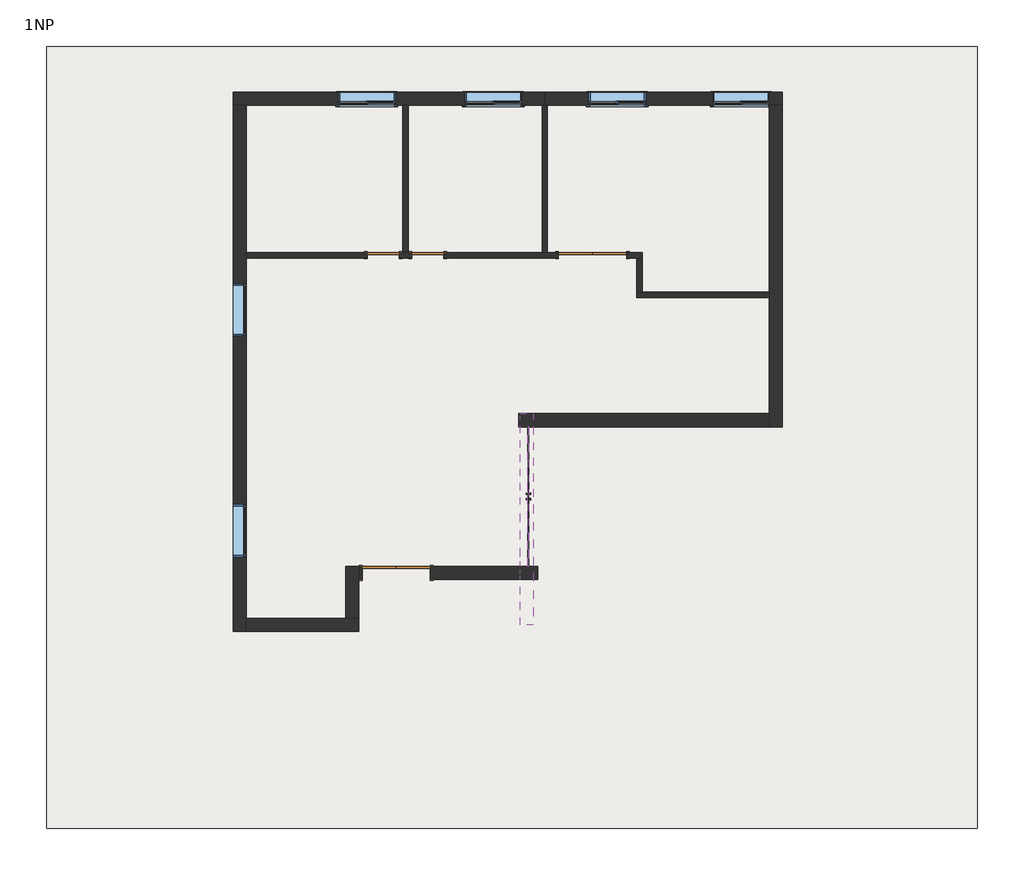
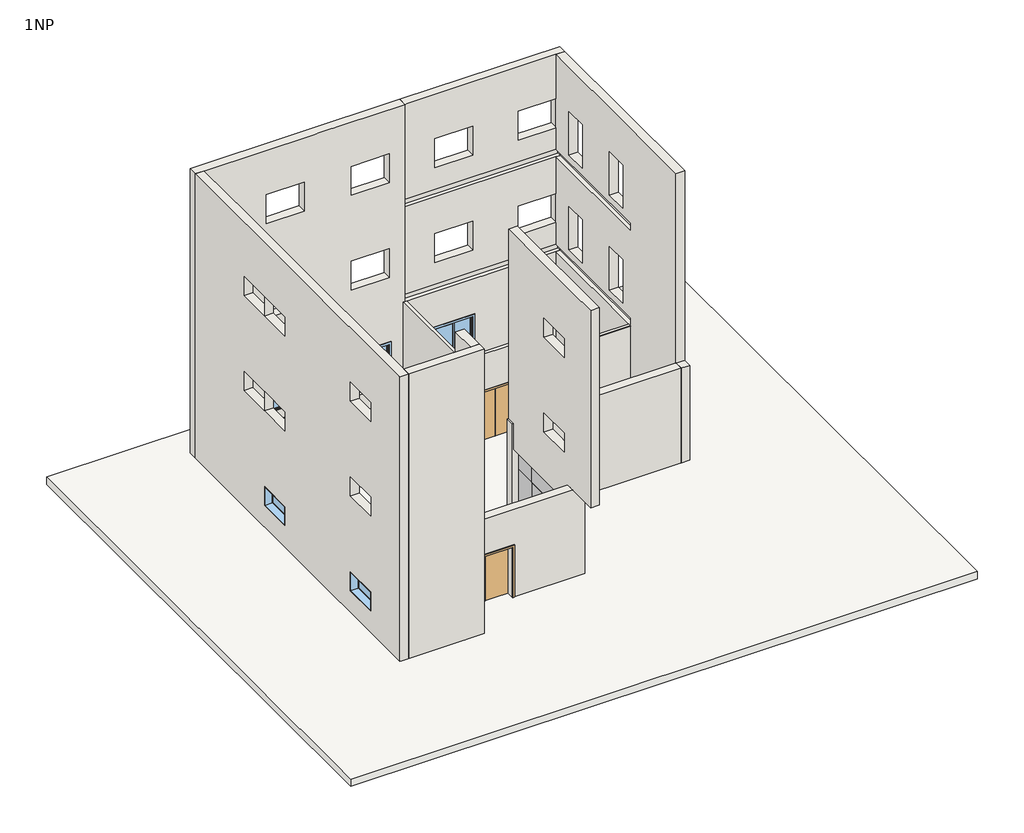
# One storey: 14 walls, 6 plates, 6 windows, 4 doors, 1 slab.
"""IFC4 building model written with IfcOpenShell, lengths in millimetres."""

from ifc_helpers import new_model, si_unit, frame, origin, origin_with_axes, place, context, project, spatial, polyline, outline, extrude, faceted_brep, transform, mapped, element, save
from components import m_double_flush_1830_x_2083mm_7a28c534, m_double_flush_1830_x_2134mm_224c2c1d, m_single_flush_0864_x_2134mm_5a8c3ac0, m_single_flush_0864_x_2134mm_a6052287, m_curtain_wall_dbl_glass_m_curtain_wall_dbl_glass_b983a01c, system_panel_glazed_d6775a2a, system_panel_glazed_6fd2c7c7, system_panel_glazed_7348faa0, m_fixed_1400_x_0800mm_a23a53e8, m_sliding_with_trim_1830_x_1220mm_f8e2f31e

model = new_model("IFC4")

# Units and contexts
model_context = context("Model", 3, world=origin())
ifc_project = project(units=[si_unit("LENGTHUNIT", "METRE", prefix="MILLI")], contexts=[model_context])

# Site, building, storey
site = spatial("IfcSite", under=ifc_project)
building = spatial("IfcBuilding", under=site)
storey = spatial("IfcBuildingStorey", under=building, Name="1NP", Elevation=0.0)

# Doors
placement = place(None, origin())
m_double_flush_1830_x_2083mm_shape = m_double_flush_1830_x_2083mm_7a28c534(model_context)
element("IfcDoor", 1, ObjectType="M_Double-Flush : 1830 x 2083mm", at=placement, inside=storey, context=model_context, shape_type="MappedRepresentation", body=[
    mapped(m_double_flush_1830_x_2083mm_shape, transform((2118.243045, 5680.8503657, 0.0), x_axis=(0.9999999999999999, 0.0, 0.0), y_axis=(0.0, 0.9999999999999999, 0.0), z_axis=(0.0, 0.0, 1.0))),
])
m_double_flush_1830_x_2134mm_shape = m_double_flush_1830_x_2134mm_224c2c1d(model_context)
element("IfcDoor", 2, ObjectType="M_Double-Flush : 1830 x 2134mm", at=placement, inside=storey, context=model_context, shape_type="MappedRepresentation", body=[
    mapped(m_double_flush_1830_x_2134mm_shape, transform((-3151.8077176, -2850.1973194, 0.0), x_axis=(0.9999999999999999, 0.0, 0.0), y_axis=(0.0, 0.9999999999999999, 0.0), z_axis=(0.0, 0.0, 1.0))),
])
m_single_flush_0864_x_2134mm_shape = m_single_flush_0864_x_2134mm_5a8c3ac0(model_context)
element("IfcDoor", 3, ObjectType="M_Single-Flush : 0864 x 2134mm", at=placement, inside=storey, context=model_context, shape_type="MappedRepresentation", body=[
    mapped(m_single_flush_0864_x_2134mm_shape, transform((-3505.756955, 5680.8503657, 0.0), x_axis=(0.9999999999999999, 0.0, 0.0), y_axis=(0.0, 0.9999999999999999, 0.0), z_axis=(0.0, 0.0, 1.0))),
])
m_single_flush_0864_x_2134mm_2_shape = m_single_flush_0864_x_2134mm_a6052287(model_context)
element("IfcDoor", 4, ObjectType="M_Single-Flush : 0864 x 2134mm", at=placement, inside=storey, context=model_context, shape_type="MappedRepresentation", body=[
    mapped(m_single_flush_0864_x_2134mm_2_shape, transform((-2303.256955, 5680.8503657, 0.0), x_axis=(-0.9999999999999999, 0.0, 0.0), y_axis=(0.0, -0.9999999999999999, 0.0), z_axis=(0.0, 0.0, 1.0))),
])

# Plates
m_curtain_wall_dbl_glass_m_curtain_wall_dbl_glass_shape = m_curtain_wall_dbl_glass_m_curtain_wall_dbl_glass_b983a01c(model_context)
element("IfcPlate", 5, ObjectType="M_Curtain Wall Dbl Glass : M_Curtain Wall Dbl Glass", at=placement, inside=storey, context=model_context, shape_type="MappedRepresentation", body=[
    mapped(m_curtain_wall_dbl_glass_m_curtain_wall_dbl_glass_shape, transform((357.3775179, -800.1973194, 0.0), x_axis=(0.0, 1.0, 0.0), y_axis=(-1.0, 0.0, 0.0), z_axis=(0.0, 0.0, 1.0))),
])
system_panel_glazed_shape = system_panel_glazed_d6775a2a(model_context)
element("IfcPlate", 6, ObjectType="System Panel : Glazed", at=placement, inside=storey, context=model_context, shape_type="MappedRepresentation", body=[
    mapped(system_panel_glazed_shape, transform((357.3775179, -2225.1973194, 0.0), x_axis=(0.0, 1.0, 0.0), y_axis=(-1.0, 0.0, 0.0), z_axis=(0.0, 0.0, 1.0))),
])
element("IfcPlate", 7, ObjectType="System Panel : Glazed", at=placement, inside=storey, context=model_context, shape_type="MappedRepresentation", body=[
    mapped(system_panel_glazed_shape, transform((357.3775179, 624.8026806, 0.0), x_axis=(0.0, 1.0, 0.0), y_axis=(-1.0, 0.0, 0.0), z_axis=(0.0, 0.0, 1.0))),
])
system_panel_glazed_2_shape = system_panel_glazed_6fd2c7c7(model_context)
element("IfcPlate", 8, ObjectType="System Panel : Glazed", at=placement, inside=storey, context=model_context, shape_type="MappedRepresentation", body=[
    mapped(system_panel_glazed_2_shape, transform((357.3775179, -2225.1973194, 2000.0), x_axis=(0.0, 1.0, 0.0), y_axis=(-1.0, 0.0, 0.0), z_axis=(0.0, 0.0, 1.0))),
])
element("IfcPlate", 9, ObjectType="System Panel : Glazed", at=placement, inside=storey, context=model_context, shape_type="MappedRepresentation", body=[
    mapped(system_panel_glazed_2_shape, transform((357.3775179, 624.8026806, 2000.0), x_axis=(0.0, 1.0, 0.0), y_axis=(-1.0, 0.0, 0.0), z_axis=(0.0, 0.0, 1.0))),
])
system_panel_glazed_3_shape = system_panel_glazed_7348faa0(model_context)
element("IfcPlate", 10, ObjectType="System Panel : Glazed", at=placement, inside=storey, context=model_context, shape_type="MappedRepresentation", body=[
    mapped(system_panel_glazed_3_shape, transform((357.3775179, -800.1973194, 2000.0), x_axis=(0.0, 1.0, 0.0), y_axis=(-1.0, 0.0, 0.0), z_axis=(0.0, 0.0, 1.0))),
])

# Slab
element("IfcSlab", 11, ObjectType="Generic 300mm", at=placement, inside=storey, context=model_context, shape_type="SweptSolid", body=[
    extrude(outline(polyline([(12456.1188993, 11292.3429374), (12456.1188993, -9707.6570626), (-12543.8811007, -9707.6570626), (-12543.8811007, 11292.3429374), (12456.1188993, 11292.3429374)])), frame((0.0, 0.0, -300.0), z_axis=(0.0, 0.0, 1.0), x_axis=(1.0, 0.0, 0.0)), (0.0, 0.0, 1.0), 300.0),
])

# Walls
element("IfcWall", 12, ObjectType="Exterior - Brick on Mtl. Stud", at=placement, inside=storey, context=model_context, shape_type="Brep", body=[
    faceted_brep([(-7530.3077176, 9711.6003657, 0.0), (-7530.3077176, -4425.1973194, 0.0), (-7530.3077176, -4425.1973194, 12000.0), (-7530.3077176, 9711.6003657, 12000.0), (-7530.3077176, -1017.6973194, 4915.0), (-7530.3077176, -1017.6973194, 5715.0), (-7530.3077176, -2417.6973194, 5715.0), (-7530.3077176, -2417.6973194, 4915.0), (-7530.3077176, 4917.3026806, 4915.0), (-7530.3077176, 4917.3026806, 5715.0), (-7530.3077176, 3517.3026806, 5715.0), (-7530.3077176, 3517.3026806, 4915.0), (-7530.3077176, 6332.3026806, 4915.0), (-7530.3077176, 6332.3026806, 5715.0), (-7530.3077176, 4932.3026806, 5715.0), (-7530.3077176, 4932.3026806, 4915.0), (-7530.3077176, -1017.6973194, 8915.0), (-7530.3077176, -1017.6973194, 9715.0), (-7530.3077176, -2417.6973194, 9715.0), (-7530.3077176, -2417.6973194, 8915.0), (-7530.3077176, 4917.3026806, 8915.0), (-7530.3077176, 4917.3026806, 9715.0), (-7530.3077176, 3517.3026806, 9715.0), (-7530.3077176, 3517.3026806, 8915.0), (-7530.3077176, 6332.3026806, 8915.0), (-7530.3077176, 6332.3026806, 9715.0), (-7530.3077176, 4932.3026806, 9715.0), (-7530.3077176, 4932.3026806, 8915.0), (-7530.3077176, -1017.6973194, 915.0), (-7530.3077176, -1017.6973194, 1715.0), (-7530.3077176, -2417.6973194, 1715.0), (-7530.3077176, -2417.6973194, 915.0), (-7530.3077176, 4917.3026806, 915.0), (-7530.3077176, 4917.3026806, 1715.0), (-7530.3077176, 3517.3026806, 1715.0), (-7530.3077176, 3517.3026806, 915.0), (-7180.3077176, -4425.1973194, 0.0), (-7180.3077176, -4075.1973194, 0.0), (-7180.3077176, 5611.6003657, 0.0), (-7180.3077176, 5750.1003657, 0.0), (-7180.3077176, 9711.6003657, 0.0), (-7180.3077176, 9711.6003657, 3680.0), (-7180.3077176, 5750.1003657, 3680.0), (-7180.3077176, 5611.6003657, 3680.0), (-7180.3077176, -4075.1973194, 3680.0), (-7180.3077176, -4240.1973194, 3680.0), (-7180.3077176, -4240.1973194, 4000.0), (-7180.3077176, -4075.1973194, 4000.0), (-7180.3077176, -652.1973194, 4000.0), (-7180.3077176, -513.6973194, 4000.0), (-7180.3077176, 1286.3026806, 4000.0), (-7180.3077176, 1424.8026806, 4000.0), (-7180.3077176, 6630.0261065, 4000.0), (-7180.3077176, 6768.5261065, 4000.0), (-7180.3077176, 9711.6003657, 4000.0), (-7180.3077176, 9711.6003657, 7680.0), (-7180.3077176, 6768.5261065, 7680.0), (-7180.3077176, 6630.0261065, 7680.0), (-7180.3077176, 1424.8026806, 7680.0), (-7180.3077176, 1286.3026806, 7680.0), (-7180.3077176, -513.6973194, 7680.0), (-7180.3077176, -652.1973194, 7680.0), (-7180.3077176, -4075.1973194, 7680.0), (-7180.3077176, -4240.1973194, 7680.0), (-7180.3077176, -4240.1973194, 8000.0), (-7180.3077176, -4075.1973194, 8000.0), (-7180.3077176, 1286.3026806, 8000.0), (-7180.3077176, 1424.8026806, 8000.0), (-7180.3077176, 6630.0261065, 8000.0), (-7180.3077176, 6768.5261065, 8000.0), (-7180.3077176, 9711.6003657, 8000.0), (-7180.3077176, 9711.6003657, 12000.0), (-7180.3077176, 6768.5261065, 12000.0), (-7180.3077176, 6630.0261065, 12000.0), (-7180.3077176, 1424.8026806, 12000.0), (-7180.3077176, 1286.3026806, 12000.0), (-7180.3077176, -4075.1973194, 12000.0), (-7180.3077176, -4425.1973194, 12000.0), (-7180.3077176, -1017.6973194, 5715.0), (-7180.3077176, -1017.6973194, 4915.0), (-7180.3077176, -2417.6973194, 4915.0), (-7180.3077176, -2417.6973194, 5715.0), (-7180.3077176, 4917.3026806, 5715.0), (-7180.3077176, 4917.3026806, 4915.0), (-7180.3077176, 3517.3026806, 4915.0), (-7180.3077176, 3517.3026806, 5715.0), (-7180.3077176, 6332.3026806, 5715.0), (-7180.3077176, 6332.3026806, 4915.0), (-7180.3077176, 4932.3026806, 4915.0), (-7180.3077176, 4932.3026806, 5715.0), (-7180.3077176, -1017.6973194, 9715.0), (-7180.3077176, -1017.6973194, 8915.0), (-7180.3077176, -2417.6973194, 8915.0), (-7180.3077176, -2417.6973194, 9715.0), (-7180.3077176, 4917.3026806, 9715.0), (-7180.3077176, 4917.3026806, 8915.0), (-7180.3077176, 3517.3026806, 8915.0), (-7180.3077176, 3517.3026806, 9715.0), (-7180.3077176, 6332.3026806, 9715.0), (-7180.3077176, 6332.3026806, 8915.0), (-7180.3077176, 4932.3026806, 8915.0), (-7180.3077176, 4932.3026806, 9715.0), (-7180.3077176, -1017.6973194, 1715.0), (-7180.3077176, -1017.6973194, 915.0), (-7180.3077176, -2417.6973194, 915.0), (-7180.3077176, -2417.6973194, 1715.0), (-7180.3077176, 4917.3026806, 1715.0), (-7180.3077176, 4917.3026806, 915.0), (-7180.3077176, 3517.3026806, 915.0), (-7180.3077176, 3517.3026806, 1715.0), (-7345.3077176, 9711.6003657, 8000.0), (-7345.3077176, 9711.6003657, 7680.0), (-7345.3077176, 9711.6003657, 4000.0), (-7345.3077176, 9711.6003657, 3680.0), (-7345.3077176, -4240.1973194, 3680.0), (-7345.3077176, -4240.1973194, 4000.0), (-7345.3077176, -4240.1973194, 7680.0), (-7345.3077176, -4240.1973194, 8000.0)], [[[0, 1, 2, 3], [4, 5, 6, 7], [8, 9, 10, 11], [12, 13, 14, 15], [16, 17, 18, 19], [20, 21, 22, 23], [24, 25, 26, 27], [28, 29, 30, 31], [32, 33, 34, 35]], [[36, 37, 38, 39, 40, 41, 42, 43, 44, 45, 46, 47, 48, 49, 50, 51, 52, 53, 54, 55, 56, 57, 58, 59, 60, 61, 62, 63, 64, 65, 66, 67, 68, 69, 70, 71, 72, 73, 74, 75, 76, 77], [78, 79, 80, 81], [82, 83, 84, 85], [86, 87, 88, 89], [90, 91, 92, 93], [94, 95, 96, 97], [98, 99, 100, 101], [102, 103, 104, 105], [106, 107, 108, 109]], [[1, 0, 40, 39, 38, 37, 36]], [[3, 2, 77, 76, 75, 74, 73, 72, 71]], [[2, 1, 36, 77]], [[0, 3, 71, 70, 110, 111, 55, 54, 112, 113, 41, 40]], [[5, 4, 79, 78]], [[6, 5, 78, 81]], [[7, 6, 81, 80]], [[4, 7, 80, 79]], [[9, 8, 83, 82]], [[10, 9, 82, 85]], [[11, 10, 85, 84]], [[8, 11, 84, 83]], [[13, 12, 87, 86]], [[14, 13, 86, 89]], [[15, 14, 89, 88]], [[12, 15, 88, 87]], [[17, 16, 91, 90]], [[18, 17, 90, 93]], [[19, 18, 93, 92]], [[16, 19, 92, 91]], [[21, 20, 95, 94]], [[22, 21, 94, 97]], [[23, 22, 97, 96]], [[20, 23, 96, 95]], [[25, 24, 99, 98]], [[26, 25, 98, 101]], [[27, 26, 101, 100]], [[24, 27, 100, 99]], [[29, 28, 103, 102]], [[30, 29, 102, 105]], [[31, 30, 105, 104]], [[28, 31, 104, 103]], [[33, 32, 107, 106]], [[34, 33, 106, 109]], [[35, 34, 109, 108]], [[32, 35, 108, 107]], [[114, 45, 44, 43, 42, 41, 113]], [[115, 112, 54, 53, 52, 51, 50, 49, 48, 47, 46]], [[115, 114, 113, 112]], [[114, 115, 46, 45]], [[111, 116, 63, 62, 61, 60, 59, 58, 57, 56, 55]], [[64, 117, 110, 70, 69, 68, 67, 66, 65]], [[116, 117, 64, 63]], [[117, 116, 111, 110]]]),
])
element("IfcWall", 13, ObjectType="Exterior - Brick on Mtl. Stud", at=placement, inside=storey, context=model_context, shape_type="Brep", body=[
    faceted_brep([(-7180.3077176, -4425.1973194, 0.0), (-4155.3077176, -4425.1973194, 0.0), (-4155.3077176, -4425.1973194, 12000.0), (-7180.3077176, -4425.1973194, 12000.0), (-4155.3077176, -4075.1973194, 0.0), (-4505.3077176, -4075.1973194, 0.0), (-7180.3077176, -4075.1973194, 0.0), (-7180.3077176, -4075.1973194, 3680.0), (-4155.3077176, -4075.1973194, 3680.0), (-7180.3077176, -4075.1973194, 12000.0), (-4505.3077176, -4075.1973194, 12000.0), (-4155.3077176, -4075.1973194, 12000.0), (-4155.3077176, -4075.1973194, 8000.0), (-7180.3077176, -4075.1973194, 8000.0), (-4155.3077176, -4075.1973194, 4000.0), (-7180.3077176, -4075.1973194, 4000.0), (-7180.3077176, -4075.1973194, 7680.0), (-4155.3077176, -4075.1973194, 7680.0), (-4155.3077176, -4240.1973194, 3680.0), (-4155.3077176, -4240.1973194, 4000.0), (-4155.3077176, -4240.1973194, 7680.0), (-4155.3077176, -4240.1973194, 8000.0), (-7180.3077176, -4240.1973194, 8000.0), (-7180.3077176, -4240.1973194, 7680.0), (-7180.3077176, -4240.1973194, 4000.0), (-7180.3077176, -4240.1973194, 3680.0)], [[[0, 1, 2, 3]], [[4, 5, 6, 7, 8]], [[9, 10, 11, 12, 13]], [[14, 15, 16, 17]], [[1, 0, 6, 5, 4]], [[3, 2, 11, 10, 9]], [[2, 1, 4, 8, 18, 19, 14, 17, 20, 21, 12, 11]], [[0, 3, 9, 13, 22, 23, 16, 15, 24, 25, 7, 6]], [[25, 18, 8, 7]], [[19, 24, 15, 14]], [[18, 25, 24, 19]], [[23, 20, 17, 16]], [[21, 22, 13, 12]], [[20, 23, 22, 21]]]),
])
element("IfcWall", 14, ObjectType="Exterior - Brick on Mtl. Stud", at=placement, inside=storey, context=model_context, shape_type="Brep", body=[
    faceted_brep([(7208.993045, 10061.6003657, 0.0), (833.993045, 10061.6003657, 0.0), (833.993045, 10061.6003657, 12000.0), (7208.993045, 10061.6003657, 12000.0), (5345.6922824, 10061.6003657, 6133.6), (5345.6922824, 10061.6003657, 4914.4), (6869.6922824, 10061.6003657, 4914.4), (6869.6922824, 10061.6003657, 6133.6), (2019.6922824, 10061.6003657, 6133.6), (2019.6922824, 10061.6003657, 4914.4), (3543.6922824, 10061.6003657, 4914.4), (3543.6922824, 10061.6003657, 6133.6), (5345.6922824, 10061.6003657, 10133.6), (5345.6922824, 10061.6003657, 8914.4), (6869.6922824, 10061.6003657, 8914.4), (6869.6922824, 10061.6003657, 10133.6), (2019.6922824, 10061.6003657, 10133.6), (2019.6922824, 10061.6003657, 8914.4), (3543.6922824, 10061.6003657, 8914.4), (3543.6922824, 10061.6003657, 10133.6), (5345.6922824, 10061.6003657, 2133.6), (5345.6922824, 10061.6003657, 914.4), (6869.6922824, 10061.6003657, 914.4), (6869.6922824, 10061.6003657, 2133.6), (2019.6922824, 10061.6003657, 2133.6), (2019.6922824, 10061.6003657, 914.4), (3543.6922824, 10061.6003657, 914.4), (3543.6922824, 10061.6003657, 2133.6), (833.993045, 9711.6003657, 0.0), (903.243045, 9711.6003657, 0.0), (6858.993045, 9711.6003657, 0.0), (7208.993045, 9711.6003657, 0.0), (7208.993045, 9711.6003657, 12000.0), (6858.993045, 9711.6003657, 12000.0), (903.243045, 9711.6003657, 12000.0), (833.993045, 9711.6003657, 12000.0), (833.993045, 9711.6003657, 8000.0), (903.243045, 9711.6003657, 8000.0), (6858.993045, 9711.6003657, 8000.0), (7023.993045, 9711.6003657, 8000.0), (7023.993045, 9711.6003657, 7680.0), (6858.993045, 9711.6003657, 7680.0), (903.243045, 9711.6003657, 7680.0), (833.993045, 9711.6003657, 7680.0), (833.993045, 9711.6003657, 4000.0), (903.243045, 9711.6003657, 4000.0), (6858.993045, 9711.6003657, 4000.0), (7023.993045, 9711.6003657, 4000.0), (7023.993045, 9711.6003657, 3680.0), (6858.993045, 9711.6003657, 3680.0), (903.243045, 9711.6003657, 3680.0), (833.993045, 9711.6003657, 3680.0), (5345.6922824, 9711.6003657, 4914.4), (5345.6922824, 9711.6003657, 6133.6), (6869.6922824, 9711.6003657, 6133.6), (6869.6922824, 9711.6003657, 4914.4), (2019.6922824, 9711.6003657, 4914.4), (2019.6922824, 9711.6003657, 6133.6), (3543.6922824, 9711.6003657, 6133.6), (3543.6922824, 9711.6003657, 4914.4), (5345.6922824, 9711.6003657, 8914.4), (5345.6922824, 9711.6003657, 10133.6), (6869.6922824, 9711.6003657, 10133.6), (6869.6922824, 9711.6003657, 8914.4), (2019.6922824, 9711.6003657, 8914.4), (2019.6922824, 9711.6003657, 10133.6), (3543.6922824, 9711.6003657, 10133.6), (3543.6922824, 9711.6003657, 8914.4), (5345.6922824, 9711.6003657, 914.4), (5345.6922824, 9711.6003657, 2133.6), (6869.6922824, 9711.6003657, 2133.6), (6869.6922824, 9711.6003657, 914.4), (2019.6922824, 9711.6003657, 914.4), (2019.6922824, 9711.6003657, 2133.6), (3543.6922824, 9711.6003657, 2133.6), (3543.6922824, 9711.6003657, 914.4), (833.993045, 9876.6003657, 3680.0), (833.993045, 9876.6003657, 4000.0), (833.993045, 9876.6003657, 7680.0), (833.993045, 9876.6003657, 8000.0), (7023.993045, 9876.6003657, 3680.0), (7023.993045, 9876.6003657, 4000.0), (7023.993045, 9876.6003657, 7680.0), (7023.993045, 9876.6003657, 8000.0)], [[[0, 1, 2, 3], [4, 5, 6, 7], [8, 9, 10, 11], [12, 13, 14, 15], [16, 17, 18, 19], [20, 21, 22, 23], [24, 25, 26, 27]], [[28, 29, 30, 31, 32, 33, 34, 35, 36, 37, 38, 39, 40, 41, 42, 43, 44, 45, 46, 47, 48, 49, 50, 51], [52, 53, 54, 55], [56, 57, 58, 59], [60, 61, 62, 63], [64, 65, 66, 67], [68, 69, 70, 71], [72, 73, 74, 75]], [[1, 0, 31, 30, 29, 28]], [[3, 2, 35, 34, 33, 32]], [[0, 3, 32, 31]], [[1, 28, 51, 76, 77, 44, 43, 78, 79, 36, 35, 2]], [[5, 4, 53, 52]], [[6, 5, 52, 55]], [[7, 6, 55, 54]], [[4, 7, 54, 53]], [[9, 8, 57, 56]], [[10, 9, 56, 59]], [[11, 10, 59, 58]], [[8, 11, 58, 57]], [[13, 12, 61, 60]], [[14, 13, 60, 63]], [[15, 14, 63, 62]], [[12, 15, 62, 61]], [[17, 16, 65, 64]], [[18, 17, 64, 67]], [[19, 18, 67, 66]], [[16, 19, 66, 65]], [[21, 20, 69, 68]], [[22, 21, 68, 71]], [[23, 22, 71, 70]], [[20, 23, 70, 69]], [[25, 24, 73, 72]], [[26, 25, 72, 75]], [[27, 26, 75, 74]], [[24, 27, 74, 73]], [[48, 80, 76, 51, 50, 49]], [[77, 81, 47, 46, 45, 44]], [[80, 81, 77, 76]], [[81, 80, 48, 47]], [[40, 82, 78, 43, 42, 41]], [[79, 83, 39, 38, 37, 36]], [[82, 83, 79, 78]], [[83, 82, 40, 39]]]),
])
element("IfcWall", 15, ObjectType="Exterior - Brick on Mtl. Stud", at=placement, inside=storey, context=model_context, shape_type="Brep", body=[
    faceted_brep([(-4505.3077176, -2675.1973194, 0.0), (-4505.3077176, -4075.1973194, 0.0), (-4505.3077176, -4075.1973194, 12000.0), (-4505.3077176, -3025.1973194, 12000.0), (-4505.3077176, -3025.1973194, 4000.0), (-4505.3077176, -2675.1973194, 4000.0), (-4155.3077176, -2675.1973194, 0.0), (-4155.3077176, -2675.1973194, 3680.0), (-4155.3077176, -2675.1973194, 4000.0), (-4155.3077176, -3025.1973194, 4000.0), (-4155.3077176, -3025.1973194, 12000.0), (-4155.3077176, -4075.1973194, 12000.0), (-4155.3077176, -4075.1973194, 8000.0), (-4155.3077176, -4075.1973194, 7680.0), (-4155.3077176, -4075.1973194, 4000.0), (-4155.3077176, -4075.1973194, 3680.0), (-4155.3077176, -4075.1973194, 0.0), (-4155.3077176, -3025.1973194, 0.0)], [[[0, 1, 2, 3, 4, 5]], [[6, 7, 8, 9, 10, 11, 12, 13, 14, 15, 16, 17]], [[1, 0, 6, 17, 16]], [[3, 2, 11, 10]], [[2, 1, 16, 15, 14, 13, 12, 11]], [[4, 9, 8, 5]], [[0, 5, 8, 7, 6]], [[3, 10, 9, 4]]]),
])
element("IfcWall", 16, ObjectType="Exterior - Brick on Mtl. Stud", at=placement, inside=storey, context=model_context, shape_type="Brep", body=[
    faceted_brep([(833.993045, 10061.6003657, 12000.0), (833.993045, 10061.6003657, 0.0), (-7530.3077176, 10061.6003657, 0.0), (-7530.3077176, 10061.6003657, 12000.0), (-1306.3077176, 10061.6003657, 6133.6), (-1306.3077176, 10061.6003657, 4914.4), (217.6922824, 10061.6003657, 4914.4), (217.6922824, 10061.6003657, 6133.6), (-4702.1577176, 10061.6003657, 6133.6), (-4702.1577176, 10061.6003657, 4914.4), (-3178.1577176, 10061.6003657, 4914.4), (-3178.1577176, 10061.6003657, 6133.6), (-1306.3077176, 10061.6003657, 10133.6), (-1306.3077176, 10061.6003657, 8914.4), (217.6922824, 10061.6003657, 8914.4), (217.6922824, 10061.6003657, 10133.6), (-4702.1577176, 10061.6003657, 10133.6), (-4702.1577176, 10061.6003657, 8914.4), (-3178.1577176, 10061.6003657, 8914.4), (-3178.1577176, 10061.6003657, 10133.6), (-1306.3077176, 10061.6003657, 2133.6), (-1306.3077176, 10061.6003657, 914.4), (217.6922824, 10061.6003657, 914.4), (217.6922824, 10061.6003657, 2133.6), (-4702.1577176, 10061.6003657, 2133.6), (-4702.1577176, 10061.6003657, 914.4), (-3178.1577176, 10061.6003657, 914.4), (-3178.1577176, 10061.6003657, 2133.6), (833.993045, 9711.6003657, 0.0), (833.993045, 9711.6003657, 3680.0), (833.993045, 9711.6003657, 4000.0), (833.993045, 9711.6003657, 7680.0), (833.993045, 9711.6003657, 8000.0), (833.993045, 9711.6003657, 12000.0), (764.743045, 9711.6003657, 12000.0), (-2646.756955, 9711.6003657, 12000.0), (-2785.256955, 9711.6003657, 12000.0), (-7180.3077176, 9711.6003657, 12000.0), (-7530.3077176, 9711.6003657, 12000.0), (-7530.3077176, 9711.6003657, 0.0), (-7180.3077176, 9711.6003657, 0.0), (-2973.756955, 9711.6003657, 0.0), (-2835.256955, 9711.6003657, 0.0), (764.743045, 9711.6003657, 0.0), (-1306.3077176, 9711.6003657, 6133.6), (217.6922824, 9711.6003657, 6133.6), (217.6922824, 9711.6003657, 4914.4), (-1306.3077176, 9711.6003657, 4914.4), (-4702.1577176, 9711.6003657, 6133.6), (-3178.1577176, 9711.6003657, 6133.6), (-3178.1577176, 9711.6003657, 4914.4), (-4702.1577176, 9711.6003657, 4914.4), (-1306.3077176, 9711.6003657, 10133.6), (217.6922824, 9711.6003657, 10133.6), (217.6922824, 9711.6003657, 8914.4), (-1306.3077176, 9711.6003657, 8914.4), (-4702.1577176, 9711.6003657, 10133.6), (-3178.1577176, 9711.6003657, 10133.6), (-3178.1577176, 9711.6003657, 8914.4), (-4702.1577176, 9711.6003657, 8914.4), (-1306.3077176, 9711.6003657, 2133.6), (217.6922824, 9711.6003657, 2133.6), (217.6922824, 9711.6003657, 914.4), (-1306.3077176, 9711.6003657, 914.4), (-4702.1577176, 9711.6003657, 2133.6), (-3178.1577176, 9711.6003657, 2133.6), (-3178.1577176, 9711.6003657, 914.4), (-4702.1577176, 9711.6003657, 914.4)], [[[0, 1, 2, 3], [4, 5, 6, 7], [8, 9, 10, 11], [12, 13, 14, 15], [16, 17, 18, 19], [20, 21, 22, 23], [24, 25, 26, 27]], [[28, 29, 30, 31, 32, 33, 34, 35, 36, 37, 38, 39, 40, 41, 42, 43], [44, 45, 46, 47], [48, 49, 50, 51], [52, 53, 54, 55], [56, 57, 58, 59], [60, 61, 62, 63], [64, 65, 66, 67]], [[2, 1, 28, 43, 42, 41, 40, 39]], [[0, 3, 38, 37, 36, 35, 34, 33]], [[3, 2, 39, 38]], [[0, 33, 32, 31, 30, 29, 28, 1]], [[5, 4, 44, 47]], [[6, 5, 47, 46]], [[7, 6, 46, 45]], [[4, 7, 45, 44]], [[9, 8, 48, 51]], [[10, 9, 51, 50]], [[11, 10, 50, 49]], [[8, 11, 49, 48]], [[13, 12, 52, 55]], [[14, 13, 55, 54]], [[15, 14, 54, 53]], [[12, 15, 53, 52]], [[17, 16, 56, 59]], [[18, 17, 59, 58]], [[19, 18, 58, 57]], [[16, 19, 57, 56]], [[21, 20, 60, 63]], [[22, 21, 63, 62]], [[23, 22, 62, 61]], [[20, 23, 61, 60]], [[25, 24, 64, 67]], [[26, 25, 67, 66]], [[27, 26, 66, 65]], [[24, 27, 65, 64]]]),
])
element("IfcWall", 17, ObjectType="Exterior - Brick on Mtl. Stud", at=placement, inside=storey, context=model_context, shape_type="Brep", body=[
    faceted_brep([(7208.993045, 1074.8026806, 0.0), (7208.993045, 9711.6003657, 0.0), (7208.993045, 9711.6003657, 12000.0), (7208.993045, 1424.8026806, 12000.0), (7208.993045, 1424.8026806, 4000.0), (7208.993045, 1074.8026806, 4000.0), (7208.993045, 5100.0261065, 4305.0), (7208.993045, 5100.0261065, 6135.0), (7208.993045, 6015.0261065, 6135.0), (7208.993045, 6015.0261065, 4305.0), (7208.993045, 7896.6003657, 4305.0), (7208.993045, 7896.6003657, 6135.0), (7208.993045, 8811.6003657, 6135.0), (7208.993045, 8811.6003657, 4305.0), (7208.993045, 5100.0261065, 8305.0), (7208.993045, 5100.0261065, 10135.0), (7208.993045, 6015.0261065, 10135.0), (7208.993045, 6015.0261065, 8305.0), (7208.993045, 7896.6003657, 8305.0), (7208.993045, 7896.6003657, 10135.0), (7208.993045, 8811.6003657, 10135.0), (7208.993045, 8811.6003657, 8305.0), (6858.993045, 9711.6003657, 0.0), (6858.993045, 4690.0261065, 0.0), (6858.993045, 4551.5261065, 0.0), (6858.993045, 1424.8026806, 0.0), (6858.993045, 1074.8026806, 0.0), (6858.993045, 1074.8026806, 4000.0), (6858.993045, 1424.8026806, 4000.0), (6858.993045, 1424.8026806, 4915.0), (6858.993045, 1424.8026806, 5715.0), (6858.993045, 1424.8026806, 8915.0), (6858.993045, 1424.8026806, 9715.0), (6858.993045, 1424.8026806, 12000.0), (6858.993045, 4561.5261065, 12000.0), (6858.993045, 4700.0261065, 12000.0), (6858.993045, 9711.6003657, 12000.0), (6858.993045, 9711.6003657, 8000.0), (6858.993045, 4700.0261065, 8000.0), (6858.993045, 4561.5261065, 8000.0), (6858.993045, 4561.5261065, 7680.0), (6858.993045, 4700.0261065, 7680.0), (6858.993045, 9711.6003657, 7680.0), (6858.993045, 9711.6003657, 4000.0), (6858.993045, 4700.0261065, 4000.0), (6858.993045, 4561.5261065, 4000.0), (6858.993045, 4561.5261065, 3680.0), (6858.993045, 4690.0261065, 3680.0), (6858.993045, 9711.6003657, 3680.0), (6858.993045, 5100.0261065, 6135.0), (6858.993045, 5100.0261065, 4305.0), (6858.993045, 6015.0261065, 4305.0), (6858.993045, 6015.0261065, 6135.0), (6858.993045, 7896.6003657, 6135.0), (6858.993045, 7896.6003657, 4305.0), (6858.993045, 8811.6003657, 4305.0), (6858.993045, 8811.6003657, 6135.0), (6858.993045, 5100.0261065, 10135.0), (6858.993045, 5100.0261065, 8305.0), (6858.993045, 6015.0261065, 8305.0), (6858.993045, 6015.0261065, 10135.0), (6858.993045, 7896.6003657, 10135.0), (6858.993045, 7896.6003657, 8305.0), (6858.993045, 8811.6003657, 8305.0), (6858.993045, 8811.6003657, 10135.0), (7023.993045, 9711.6003657, 3680.0), (7023.993045, 9711.6003657, 4000.0), (7023.993045, 9711.6003657, 7680.0), (7023.993045, 9711.6003657, 8000.0), (7023.993045, 4561.5261065, 3680.0), (7023.993045, 4561.5261065, 4000.0), (7023.993045, 4561.5261065, 7680.0), (7023.993045, 4561.5261065, 8000.0)], [[[0, 1, 2, 3, 4, 5], [6, 7, 8, 9], [10, 11, 12, 13], [14, 15, 16, 17], [18, 19, 20, 21]], [[22, 23, 24, 25, 26, 27, 28, 29, 30, 31, 32, 33, 34, 35, 36, 37, 38, 39, 40, 41, 42, 43, 44, 45, 46, 47, 48], [49, 50, 51, 52], [53, 54, 55, 56], [57, 58, 59, 60], [61, 62, 63, 64]], [[1, 0, 26, 25, 24, 23, 22]], [[3, 2, 36, 35, 34, 33]], [[28, 27, 5, 4]], [[0, 5, 27, 26]], [[4, 3, 33, 32, 31, 30, 29, 28]], [[2, 1, 22, 48, 65, 66, 43, 42, 67, 68, 37, 36]], [[7, 6, 50, 49]], [[8, 7, 49, 52]], [[9, 8, 52, 51]], [[6, 9, 51, 50]], [[11, 10, 54, 53]], [[12, 11, 53, 56]], [[13, 12, 56, 55]], [[10, 13, 55, 54]], [[15, 14, 58, 57]], [[16, 15, 57, 60]], [[17, 16, 60, 59]], [[14, 17, 59, 58]], [[19, 18, 62, 61]], [[20, 19, 61, 64]], [[21, 20, 64, 63]], [[18, 21, 63, 62]], [[46, 69, 65, 48, 47]], [[66, 70, 45, 44, 43]], [[69, 70, 66, 65]], [[70, 69, 46, 45]], [[40, 71, 67, 42, 41]], [[68, 72, 39, 38, 37]], [[71, 72, 68, 67]], [[72, 71, 40, 39]]]),
])
element("IfcWall", 18, ObjectType="Exterior - Brick on Mtl. Stud", at=placement, inside=storey, context=model_context, shape_type="Brep", body=[
    faceted_brep([(532.3775179, -4250.1973194, 3680.0), (532.3775179, -2850.1973194, 3680.0), (532.3775179, -2850.1973194, 2900.0), (532.3775179, 1424.8026806, 2900.0), (532.3775179, 1424.8026806, 4000.0), (532.3775179, 1424.8026806, 7680.0), (532.3775179, 1424.8026806, 8000.0), (532.3775179, 1424.8026806, 12000.0), (532.3775179, 1074.8026806, 12000.0), (532.3775179, -4250.1973194, 12000.0), (532.3775179, -1017.6973194, 4915.0), (532.3775179, -2417.6973194, 4915.0), (532.3775179, -2417.6973194, 5715.0), (532.3775179, -1017.6973194, 5715.0), (532.3775179, -1017.6973194, 8915.0), (532.3775179, -2417.6973194, 8915.0), (532.3775179, -2417.6973194, 9715.0), (532.3775179, -1017.6973194, 9715.0), (182.3775179, -4250.1973194, 3680.0), (182.3775179, -4250.1973194, 12000.0), (182.3775179, -3025.1973194, 12000.0), (182.3775179, -2675.1973194, 12000.0), (182.3775179, 1286.3026806, 12000.0), (182.3775179, 1424.8026806, 12000.0), (182.3775179, 1424.8026806, 8000.0), (182.3775179, 1424.8026806, 7680.0), (182.3775179, 1424.8026806, 4000.0), (182.3775179, 1424.8026806, 2900.0), (182.3775179, -2850.1973194, 2900.0), (182.3775179, -2850.1973194, 3680.0), (182.3775179, -1017.6973194, 4915.0), (182.3775179, -1017.6973194, 5715.0), (182.3775179, -2417.6973194, 5715.0), (182.3775179, -2417.6973194, 4915.0), (182.3775179, -1017.6973194, 8915.0), (182.3775179, -1017.6973194, 9715.0), (182.3775179, -2417.6973194, 9715.0), (182.3775179, -2417.6973194, 8915.0)], [[[0, 1, 2, 3, 4, 5, 6, 7, 8, 9], [10, 11, 12, 13], [14, 15, 16, 17]], [[18, 19, 20, 21, 22, 23, 24, 25, 26, 27, 28, 29], [30, 31, 32, 33], [34, 35, 36, 37]], [[1, 0, 18, 29]], [[2, 1, 29, 28]], [[3, 2, 28, 27]], [[9, 8, 7, 23, 22, 21, 20, 19]], [[0, 9, 19, 18]], [[3, 27, 26, 25, 24, 23, 7, 6, 5, 4]], [[31, 30, 10, 13]], [[32, 31, 13, 12]], [[33, 32, 12, 11]], [[30, 33, 11, 10]], [[35, 34, 14, 17]], [[36, 35, 17, 16]], [[37, 36, 16, 15]], [[34, 37, 15, 14]]]),
])
element("IfcWall", 19, ObjectType="Exterior - Brick on Mtl. Stud", at=placement, inside=storey, context=model_context, shape_type="Brep", body=[
    faceted_brep([(6858.993045, 1424.8026806, 0.0), (133.993045, 1424.8026806, 0.0), (133.993045, 1424.8026806, 4000.0), (532.3775179, 1424.8026806, 4000.0), (6858.993045, 1424.8026806, 4000.0), (6858.993045, 1074.8026806, 0.0), (6858.993045, 1074.8026806, 4000.0), (532.3775179, 1074.8026806, 4000.0), (133.993045, 1074.8026806, 4000.0), (133.993045, 1074.8026806, 0.0)], [[[0, 1, 2, 3, 4]], [[5, 6, 7, 8, 9]], [[1, 0, 5, 9]], [[2, 1, 9, 8]], [[4, 3, 2, 8, 7, 6]], [[0, 4, 6, 5]]]),
])
element("IfcWall", 20, ObjectType="Exterior - Brick on Mtl. Stud", at=placement, inside=storey, context=model_context, shape_type="SweptSolid", body=[
    extrude(outline(polyline([(2134.0, -2236.8077176), (0.0, -2236.8077176), (0.0, 644.6922824), (3680.0, 644.6922824), (3680.0, 357.3775179), (3680.0, -4155.3077176), (0.0, -4155.3077176), (0.0, -4066.8077176), (2134.0, -4066.8077176), (2134.0, -2236.8077176)])), frame((0.0, -3025.1973194, 0.0), z_axis=(0.0, 1.0, 0.0), x_axis=(0.0, 0.0, 1.0)), (0.0, 0.0, 1.0), 350.0),
])
element("IfcWall", 21, ObjectType="Interior - 138mm Partition (1-hr)", at=placement, inside=storey, context=model_context, shape_type="Brep", body=[
    faceted_brep([(903.243045, 5750.1003657, 0.0), (903.243045, 9711.6003657, 0.0), (903.243045, 9711.6003657, 3680.0), (903.243045, 5750.1003657, 3680.0), (764.743045, 5750.1003657, 0.0), (764.743045, 5750.1003657, 3680.0), (764.743045, 9711.6003657, 3680.0), (764.743045, 9711.6003657, 0.0), (833.993045, 9711.6003657, 0.0), (833.993045, 9711.6003657, 3680.0)], [[[0, 1, 2, 3]], [[4, 5, 6, 7]], [[1, 0, 4, 7, 8]], [[2, 1, 8, 7, 6, 9]], [[0, 3, 5, 4]], [[3, 2, 9, 6, 5]]]),
])
element("IfcWall", 22, ObjectType="Interior - 138mm Partition (1-hr)", at=placement, inside=storey, context=model_context, shape_type="Brep", body=[
    faceted_brep([(3447.493045, 5750.1003657, 0.0), (3033.243045, 5750.1003657, 0.0), (3033.243045, 5750.1003657, 2083.0), (1203.243045, 5750.1003657, 2083.0), (1203.243045, 5750.1003657, 0.0), (903.243045, 5750.1003657, 0.0), (764.743045, 5750.1003657, 0.0), (-1871.256955, 5750.1003657, 0.0), (-1871.256955, 5750.1003657, 2134.0), (-2735.256955, 5750.1003657, 2134.0), (-2735.256955, 5750.1003657, 0.0), (-2835.256955, 5750.1003657, 0.0), (-2973.756955, 5750.1003657, 0.0), (-3073.756955, 5750.1003657, 0.0), (-3073.756955, 5750.1003657, 2134.0), (-3937.756955, 5750.1003657, 2134.0), (-3937.756955, 5750.1003657, 0.0), (-7180.3077176, 5750.1003657, 0.0), (-7180.3077176, 5750.1003657, 3680.0), (-2973.756955, 5750.1003657, 3680.0), (-2835.256955, 5750.1003657, 3680.0), (764.743045, 5750.1003657, 3680.0), (903.243045, 5750.1003657, 3680.0), (3447.493045, 5750.1003657, 3680.0), (3033.243045, 5611.6003657, 2083.0), (3033.243045, 5611.6003657, 0.0), (3308.993045, 5611.6003657, 0.0), (3447.493045, 5611.6003657, 0.0), (3447.493045, 5611.6003657, 3680.0), (3308.993045, 5611.6003657, 3680.0), (-7180.3077176, 5611.6003657, 3680.0), (-7180.3077176, 5611.6003657, 0.0), (-3937.756955, 5611.6003657, 0.0), (-3937.756955, 5611.6003657, 2134.0), (-3073.756955, 5611.6003657, 2134.0), (-3073.756955, 5611.6003657, 0.0), (-2735.256955, 5611.6003657, 0.0), (-2735.256955, 5611.6003657, 2134.0), (-1871.256955, 5611.6003657, 2134.0), (-1871.256955, 5611.6003657, 0.0), (1203.243045, 5611.6003657, 0.0), (1203.243045, 5611.6003657, 2083.0)], [[[0, 1, 2, 3, 4, 5, 6, 7, 8, 9, 10, 11, 12, 13, 14, 15, 16, 17, 18, 19, 20, 21, 22, 23]], [[24, 25, 26, 27, 28, 29, 30, 31, 32, 33, 34, 35, 36, 37, 38, 39, 40, 41]], [[36, 35, 13, 12, 11, 10]], [[27, 26, 25, 1, 0]], [[32, 31, 17, 16]], [[40, 39, 7, 6, 5, 4]], [[0, 23, 28, 27]], [[18, 17, 31, 30]], [[23, 22, 21, 20, 19, 18, 30, 29, 28]], [[37, 36, 10, 9]], [[38, 37, 9, 8]], [[39, 38, 8, 7]], [[14, 13, 35, 34]], [[15, 14, 34, 33]], [[16, 15, 33, 32]], [[2, 1, 25, 24]], [[3, 2, 24, 41]], [[4, 3, 41, 40]]]),
])
element("IfcWall", 23, ObjectType="Interior - 138mm Partition (1-hr)", at=placement, inside=storey, context=model_context, shape_type="SweptSolid", body=[
    extrude(outline(polyline([(-2973.756955, 5750.1003657), (-2973.756955, 9711.6003657), (-2835.256955, 9711.6003657), (-2835.256955, 5750.1003657), (-2973.756955, 5750.1003657)])), origin_with_axes(), (0.0, 0.0, 1.0), 3680.0),
])
element("IfcWall", 24, ObjectType="Interior - 138mm Partition (1-hr)", at=placement, inside=storey, context=model_context, shape_type="Brep", body=[
    faceted_brep([(6858.993045, 4690.0261065, 0.0), (3447.493045, 4690.0261065, 0.0), (3308.993045, 4690.0261065, 0.0), (3308.993045, 4690.0261065, 3680.0), (3447.493045, 4690.0261065, 3680.0), (6858.993045, 4690.0261065, 3680.0), (6858.993045, 4551.5261065, 0.0), (6858.993045, 4551.5261065, 3680.0), (3308.993045, 4551.5261065, 3680.0), (3308.993045, 4551.5261065, 0.0), (3308.993045, 4561.5261065, 3680.0), (6858.993045, 4561.5261065, 3680.0)], [[[0, 1, 2, 3, 4, 5]], [[6, 7, 8, 9]], [[2, 1, 0, 6, 9]], [[3, 2, 9, 8, 10]], [[0, 5, 11, 7, 6]], [[10, 8, 7, 11]], [[5, 4, 3, 10, 11]]]),
])
element("IfcWall", 25, ObjectType="Interior - 138mm Partition (1-hr)", at=placement, inside=storey, context=model_context, shape_type="SweptSolid", body=[
    extrude(outline(polyline([(3447.493045, 5611.6003657), (3447.493045, 4690.0261065), (3308.993045, 4690.0261065), (3308.993045, 5611.6003657), (3447.493045, 5611.6003657)])), origin_with_axes(), (0.0, 0.0, 1.0), 3680.0),
])

# Windows
m_fixed_1400_x_0800mm_shape = m_fixed_1400_x_0800mm_a23a53e8(model_context)
element("IfcWindow", 26, ObjectType="M_Fixed : 1400 x 0800mm", at=placement, inside=storey, context=model_context, shape_type="MappedRepresentation", body=[
    mapped(m_fixed_1400_x_0800mm_shape, transform((-7368.3077176, -1717.6973194, 0.0), x_axis=(0.0, -1.0, 0.0), y_axis=(1.0, 0.0, 0.0), z_axis=(0.0, 0.0, 1.0))),
])
element("IfcWindow", 27, ObjectType="M_Fixed : 1400 x 0800mm", at=placement, inside=storey, context=model_context, shape_type="MappedRepresentation", body=[
    mapped(m_fixed_1400_x_0800mm_shape, transform((-7368.3077176, 4217.3026806, 0.0), x_axis=(0.0, -1.0, 0.0), y_axis=(1.0, 0.0, 0.0), z_axis=(0.0, 0.0, 1.0))),
])
m_sliding_with_trim_1830_x_1220mm_shape = m_sliding_with_trim_1830_x_1220mm_f8e2f31e(model_context)
element("IfcWindow", 28, ObjectType="M_Sliding with Trim : 1830 x 1220mm", at=placement, inside=storey, context=model_context, shape_type="MappedRepresentation", body=[
    mapped(m_sliding_with_trim_1830_x_1220mm_shape, transform((6107.6922824, 9886.6003657, 0.0), x_axis=(-1.0, 0.0, 0.0), y_axis=(0.0, -1.0, 0.0), z_axis=(0.0, 0.0, 1.0))),
])
element("IfcWindow", 29, ObjectType="M_Sliding with Trim : 1830 x 1220mm", at=placement, inside=storey, context=model_context, shape_type="MappedRepresentation", body=[
    mapped(m_sliding_with_trim_1830_x_1220mm_shape, transform((2781.6922824, 9886.6003657, 0.0), x_axis=(-1.0, 0.0, 0.0), y_axis=(0.0, -1.0, 0.0), z_axis=(0.0, 0.0, 1.0))),
])
element("IfcWindow", 30, ObjectType="M_Sliding with Trim : 1830 x 1220mm", at=placement, inside=storey, context=model_context, shape_type="MappedRepresentation", body=[
    mapped(m_sliding_with_trim_1830_x_1220mm_shape, transform((-544.3077176, 9886.6003657, 0.0), x_axis=(-1.0, 0.0, 0.0), y_axis=(0.0, -1.0, 0.0), z_axis=(0.0, 0.0, 1.0))),
])
element("IfcWindow", 31, ObjectType="M_Sliding with Trim : 1830 x 1220mm", at=placement, inside=storey, context=model_context, shape_type="MappedRepresentation", body=[
    mapped(m_sliding_with_trim_1830_x_1220mm_shape, transform((-3940.1577176, 9886.6003657, 0.0), x_axis=(-1.0, 0.0, 0.0), y_axis=(0.0, -1.0, 0.0), z_axis=(0.0, 0.0, 1.0))),
])

save(model, "model.ifc")
